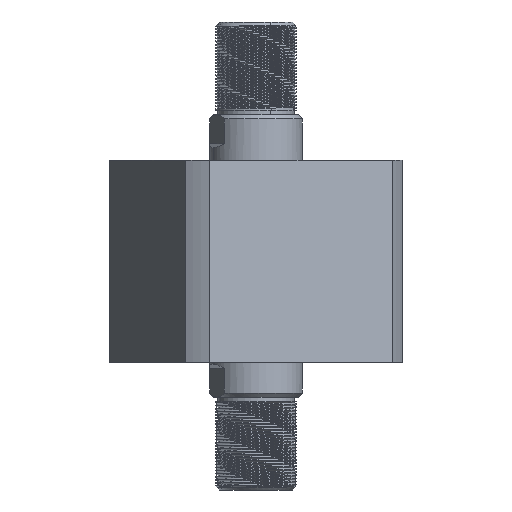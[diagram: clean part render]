
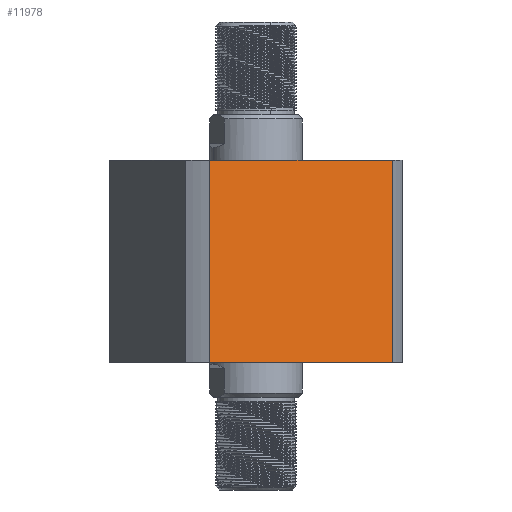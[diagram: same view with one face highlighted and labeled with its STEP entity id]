
A CAD part, left-side view. The second image highlights one B-rep face of the part: STEP entity #11978.
In plain terms, the highlighted planar face has unit normal (-0.924, -0.383, 0) as drawn and (1, 0, 0) by its records, which use the part's own axes.
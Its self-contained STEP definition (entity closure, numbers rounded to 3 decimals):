
#575 = VERTEX_POINT ( 'NONE', #26139 ) ;
#2194 = EDGE_CURVE ( 'NONE', #19271, #5208, #13143, .T. ) ;
#3625 = PLANE ( 'NONE',  #19568 ) ;
#4398 = DIRECTION ( 'NONE',  ( 0., 0., -1. ) ) ;
#5208 = VERTEX_POINT ( 'NONE', #20182 ) ;
#5562 = CARTESIAN_POINT ( 'NONE',  ( 57., -47.971, -2902. ) ) ;
#5790 = EDGE_CURVE ( 'NONE', #19271, #9427, #23846, .T. ) ;
#6256 = EDGE_CURVE ( 'NONE', #575, #5208, #24152, .T. ) ;
#8473 = DIRECTION ( 'NONE',  ( 0., 1., 0. ) ) ;
#9427 = VERTEX_POINT ( 'NONE', #20195 ) ;
#9688 = DIRECTION ( 'NONE',  ( 0., -1., 0. ) ) ;
#9995 = EDGE_LOOP ( 'NONE', ( #19056, #23726, #16321, #16702 ) ) ;
#11865 = VECTOR ( 'NONE', #8473, 1000. ) ;
#11978 = ADVANCED_FACE ( 'NONE', ( #16889 ), #3625, .F. ) ;
#13143 = LINE ( 'NONE', #20542, #11865 ) ;
#13658 = LINE ( 'NONE', #23045, #18360 ) ;
#13681 = CARTESIAN_POINT ( 'NONE',  ( 57., 57., 98. ) ) ;
#16321 = ORIENTED_EDGE ( 'NONE', *, *, #6256, .F. ) ;
#16702 = ORIENTED_EDGE ( 'NONE', *, *, #18704, .F. ) ;
#16889 = FACE_OUTER_BOUND ( 'NONE', #9995, .T. ) ;
#17106 = CARTESIAN_POINT ( 'NONE',  ( 57., -47.971, 0. ) ) ;
#18360 = VECTOR ( 'NONE', #18977, 1000. ) ;
#18492 = CARTESIAN_POINT ( 'NONE',  ( 57., 47.971, -2902. ) ) ;
#18704 = EDGE_CURVE ( 'NONE', #9427, #575, #13658, .T. ) ;
#18736 = VECTOR ( 'NONE', #4398, 1000. ) ;
#18977 = DIRECTION ( 'NONE',  ( 0., 1., 0. ) ) ;
#19056 = ORIENTED_EDGE ( 'NONE', *, *, #5790, .F. ) ;
#19271 = VERTEX_POINT ( 'NONE', #17106 ) ;
#19568 = AXIS2_PLACEMENT_3D ( 'NONE', #13681, #21755, #9688 ) ;
#20182 = CARTESIAN_POINT ( 'NONE',  ( 57., 47.971, 0. ) ) ;
#20195 = CARTESIAN_POINT ( 'NONE',  ( 57., -47.971, 98. ) ) ;
#20542 = CARTESIAN_POINT ( 'NONE',  ( 57., 57., 0. ) ) ;
#21755 = DIRECTION ( 'NONE',  ( -1., 0., 0. ) ) ;
#23045 = CARTESIAN_POINT ( 'NONE',  ( 57., 57., 98. ) ) ;
#23206 = VECTOR ( 'NONE', #23741, 1000. ) ;
#23726 = ORIENTED_EDGE ( 'NONE', *, *, #2194, .T. ) ;
#23741 = DIRECTION ( 'NONE',  ( 0., 0., 1. ) ) ;
#23846 = LINE ( 'NONE', #5562, #23206 ) ;
#24152 = LINE ( 'NONE', #18492, #18736 ) ;
#26139 = CARTESIAN_POINT ( 'NONE',  ( 57., 47.971, 98. ) ) ;
